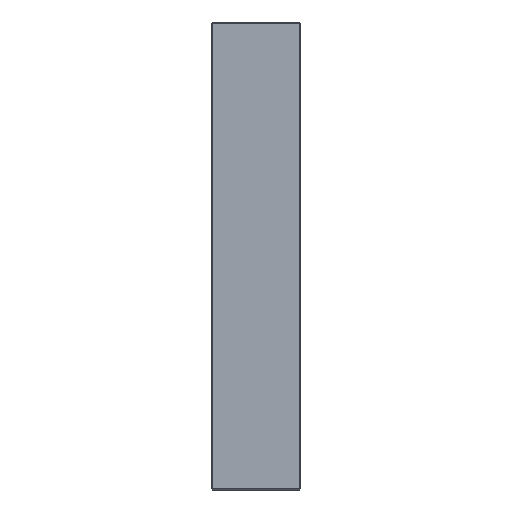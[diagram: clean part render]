
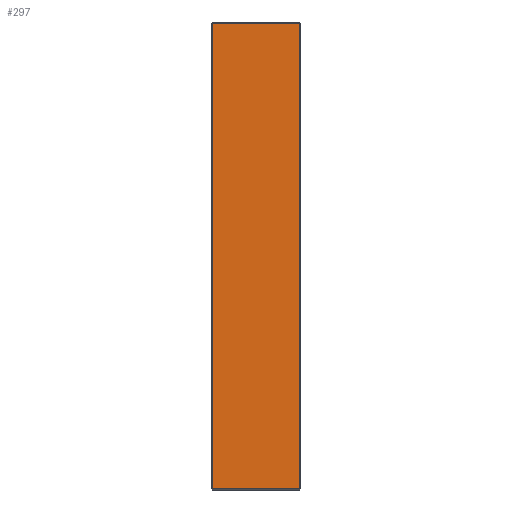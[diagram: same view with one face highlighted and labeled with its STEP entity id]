
A CAD part, left-side view. The second image highlights one B-rep face of the part: STEP entity #297.
In plain terms, the highlighted planar face has unit normal (-1, 0, 0).
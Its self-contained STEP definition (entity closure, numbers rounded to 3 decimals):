
#6 = VERTEX_POINT ( 'NONE', #1386 ) ;
#11 = CARTESIAN_POINT ( 'NONE',  ( -198., 75., -197. ) ) ;
#43 = VECTOR ( 'NONE', #2624, 1000. ) ;
#297 = ADVANCED_FACE ( 'NONE', ( #1500 ), #1246, .F. ) ;
#357 = CARTESIAN_POINT ( 'NONE',  ( -198., 76., -197. ) ) ;
#403 = DIRECTION ( 'NONE',  ( 0., 0., -1. ) ) ;
#448 = VERTEX_POINT ( 'NONE', #554 ) ;
#554 = CARTESIAN_POINT ( 'NONE',  ( -198., 1., -197. ) ) ;
#588 = AXIS2_PLACEMENT_3D ( 'NONE', #2155, #739, #730 ) ;
#589 = ORIENTED_EDGE ( 'NONE', *, *, #1028, .T. ) ;
#648 = ORIENTED_EDGE ( 'NONE', *, *, #2096, .T. ) ;
#730 = DIRECTION ( 'NONE',  ( 0., 0., -1. ) ) ;
#739 = DIRECTION ( 'NONE',  ( 1., 0., 0. ) ) ;
#936 = LINE ( 'NONE', #1723, #2510 ) ;
#985 = VERTEX_POINT ( 'NONE', #1729 ) ;
#1015 = EDGE_CURVE ( 'NONE', #1636, #448, #1201, .T. ) ;
#1028 = EDGE_CURVE ( 'NONE', #448, #985, #1742, .T. ) ;
#1116 = DIRECTION ( 'NONE',  ( 0., -1., 0. ) ) ;
#1132 = VECTOR ( 'NONE', #1116, 1000. ) ;
#1201 = LINE ( 'NONE', #357, #1132 ) ;
#1246 = PLANE ( 'NONE',  #588 ) ;
#1386 = CARTESIAN_POINT ( 'NONE',  ( -198., 75., 197. ) ) ;
#1459 = ORIENTED_EDGE ( 'NONE', *, *, #1902, .T. ) ;
#1500 = FACE_OUTER_BOUND ( 'NONE', #2257, .T. ) ;
#1636 = VERTEX_POINT ( 'NONE', #11 ) ;
#1696 = ORIENTED_EDGE ( 'NONE', *, *, #1015, .T. ) ;
#1723 = CARTESIAN_POINT ( 'NONE',  ( -198., 76., 197. ) ) ;
#1729 = CARTESIAN_POINT ( 'NONE',  ( -198., 1., 197. ) ) ;
#1742 = LINE ( 'NONE', #2239, #43 ) ;
#1868 = CARTESIAN_POINT ( 'NONE',  ( -198., 75., 198. ) ) ;
#1902 = EDGE_CURVE ( 'NONE', #985, #6, #936, .T. ) ;
#1948 = DIRECTION ( 'NONE',  ( 0., 1., 0. ) ) ;
#1950 = VECTOR ( 'NONE', #403, 1000. ) ;
#2096 = EDGE_CURVE ( 'NONE', #6, #1636, #2481, .T. ) ;
#2155 = CARTESIAN_POINT ( 'NONE',  ( -198., 76., 198. ) ) ;
#2239 = CARTESIAN_POINT ( 'NONE',  ( -198., 1., 198. ) ) ;
#2257 = EDGE_LOOP ( 'NONE', ( #1459, #648, #1696, #589 ) ) ;
#2481 = LINE ( 'NONE', #1868, #1950 ) ;
#2510 = VECTOR ( 'NONE', #1948, 1000. ) ;
#2624 = DIRECTION ( 'NONE',  ( 0., 0., 1. ) ) ;
